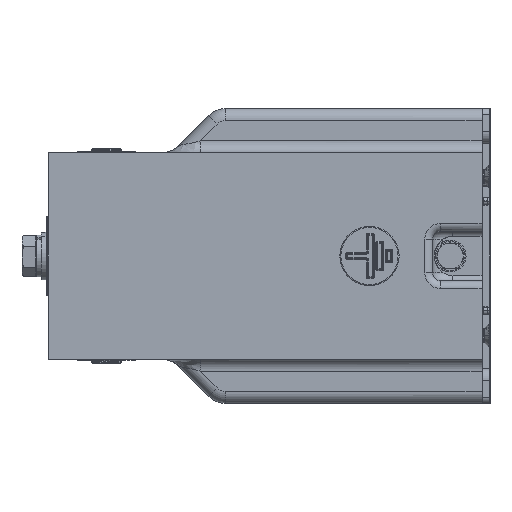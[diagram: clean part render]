
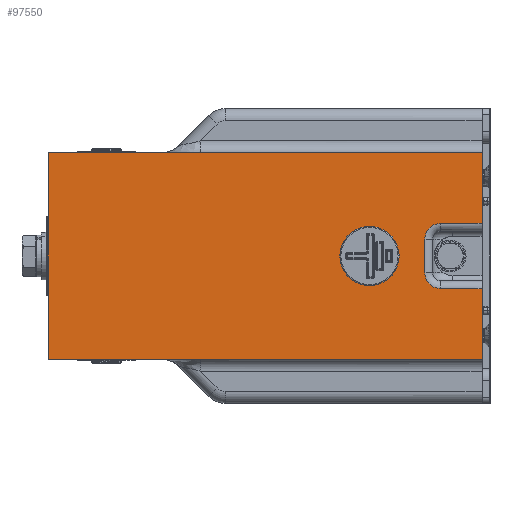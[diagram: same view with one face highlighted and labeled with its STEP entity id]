
A CAD part, left-side view. The second image highlights one B-rep face of the part: STEP entity #97550.
In plain terms, the highlighted planar face has unit normal (-1, 0, 0).
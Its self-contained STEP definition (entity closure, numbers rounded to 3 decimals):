
#352 = VECTOR ( 'NONE', #74462, 1000. ) ;
#1805 = VERTEX_POINT ( 'NONE', #57879 ) ;
#2628 = LINE ( 'NONE', #98120, #98462 ) ;
#3495 = CARTESIAN_POINT ( 'NONE',  ( -175.159, -94.087, -8.433 ) ) ;
#4143 = CARTESIAN_POINT ( 'NONE',  ( -175.159, -94.087, 16.369 ) ) ;
#7169 = VECTOR ( 'NONE', #80734, 1000. ) ;
#7337 = CARTESIAN_POINT ( 'NONE',  ( -175.159, -114.92, 16.369 ) ) ;
#9529 = DIRECTION ( 'NONE',  ( 0., 0., -1. ) ) ;
#9608 = ORIENTED_EDGE ( 'NONE', *, *, #20331, .F. ) ;
#10249 = EDGE_CURVE ( 'NONE', #103727, #77904, #92428, .T. ) ;
#10717 = CARTESIAN_POINT ( 'NONE',  ( -175.159, -114.92, -19.841 ) ) ;
#11743 = DIRECTION ( 'NONE',  ( 1., 0., 0. ) ) ;
#11749 = CARTESIAN_POINT ( 'NONE',  ( -175.159, -58.373, 14.881 ) ) ;
#13028 = EDGE_LOOP ( 'NONE', ( #101043, #33435 ) ) ;
#13439 = EDGE_CURVE ( 'NONE', #67068, #57451, #75510, .T. ) ;
#14161 = AXIS2_PLACEMENT_3D ( 'NONE', #3495, #11743, #20029 ) ;
#16736 = DIRECTION ( 'NONE',  ( 0., 0., -1. ) ) ;
#17189 = DIRECTION ( 'NONE',  ( 0., 0., -1. ) ) ;
#18295 = LINE ( 'NONE', #10717, #73183 ) ;
#18909 = CARTESIAN_POINT ( 'NONE',  ( -175.159, 103.08, 51.835 ) ) ;
#20029 = DIRECTION ( 'NONE',  ( 0., 0., -1. ) ) ;
#20058 = DIRECTION ( 'NONE',  ( 0., 0., -1. ) ) ;
#20331 = EDGE_CURVE ( 'NONE', #93513, #46008, #73727, .T. ) ;
#23579 = CARTESIAN_POINT ( 'NONE',  ( -175.159, 103.08, 51.835 ) ) ;
#24369 = AXIS2_PLACEMENT_3D ( 'NONE', #52564, #67918, #20058 ) ;
#24759 = FACE_BOUND ( 'NONE', #13028, .T. ) ;
#25494 = CARTESIAN_POINT ( 'NONE',  ( -175.159, -86.151, -8.433 ) ) ;
#25766 = DIRECTION ( 'NONE',  ( 0., 0., -1. ) ) ;
#27969 = EDGE_CURVE ( 'NONE', #74569, #81456, #88741, .T. ) ;
#28253 = LINE ( 'NONE', #75538, #63965 ) ;
#29356 = DIRECTION ( 'NONE',  ( 0., 0., 1. ) ) ;
#30422 = ORIENTED_EDGE ( 'NONE', *, *, #48382, .F. ) ;
#30887 = CARTESIAN_POINT ( 'NONE',  ( -175.159, -114.92, 51.835 ) ) ;
#31997 = ORIENTED_EDGE ( 'NONE', *, *, #97876, .T. ) ;
#33170 = VERTEX_POINT ( 'NONE', #37319 ) ;
#33435 = ORIENTED_EDGE ( 'NONE', *, *, #66390, .T. ) ;
#33898 = AXIS2_PLACEMENT_3D ( 'NONE', #96477, #64392, #105326 ) ;
#35260 = CARTESIAN_POINT ( 'NONE',  ( -175.159, -94.087, -16.369 ) ) ;
#36122 = ORIENTED_EDGE ( 'NONE', *, *, #98200, .F. ) ;
#37319 = CARTESIAN_POINT ( 'NONE',  ( -175.159, -58.373, -14.881 ) ) ;
#39265 = DIRECTION ( 'NONE',  ( 0., 0., 1. ) ) ;
#40197 = FACE_OUTER_BOUND ( 'NONE', #55914, .T. ) ;
#41080 = VERTEX_POINT ( 'NONE', #85123 ) ;
#41836 = CARTESIAN_POINT ( 'NONE',  ( -175.159, -94.087, 8.432 ) ) ;
#43696 = CIRCLE ( 'NONE', #49086, 7.937 ) ;
#44549 = ORIENTED_EDGE ( 'NONE', *, *, #52880, .T. ) ;
#46008 = VERTEX_POINT ( 'NONE', #4143 ) ;
#46448 = CARTESIAN_POINT ( 'NONE',  ( -175.159, -114.92, -51.835 ) ) ;
#48088 = CARTESIAN_POINT ( 'NONE',  ( -175.159, -114.92, -16.369 ) ) ;
#48382 = EDGE_CURVE ( 'NONE', #67068, #81456, #28253, .T. ) ;
#49086 = AXIS2_PLACEMENT_3D ( 'NONE', #41836, #99156, #9529 ) ;
#50186 = VECTOR ( 'NONE', #67472, 1000. ) ;
#50454 = DIRECTION ( 'NONE',  ( 1., 0., 0. ) ) ;
#52564 = CARTESIAN_POINT ( 'NONE',  ( -175.159, -58.373, 0. ) ) ;
#52880 = EDGE_CURVE ( 'NONE', #77904, #1805, #61982, .T. ) ;
#53733 = ORIENTED_EDGE ( 'NONE', *, *, #57912, .T. ) ;
#54608 = CARTESIAN_POINT ( 'NONE',  ( -175.159, -114.92, -19.841 ) ) ;
#55914 = EDGE_LOOP ( 'NONE', ( #102090, #30422, #56225, #56734, #53733, #9608, #31997, #61777, #44549, #36122 ) ) ;
#56225 = ORIENTED_EDGE ( 'NONE', *, *, #13439, .T. ) ;
#56734 = ORIENTED_EDGE ( 'NONE', *, *, #68699, .F. ) ;
#57451 = VERTEX_POINT ( 'NONE', #25494 ) ;
#57879 = CARTESIAN_POINT ( 'NONE',  ( -175.159, 103.08, -51.835 ) ) ;
#57912 = EDGE_CURVE ( 'NONE', #41080, #46008, #43696, .T. ) ;
#59280 = CARTESIAN_POINT ( 'NONE',  ( -175.159, -114.92, -51.835 ) ) ;
#61301 = CIRCLE ( 'NONE', #95047, 14.881 ) ;
#61777 = ORIENTED_EDGE ( 'NONE', *, *, #10249, .T. ) ;
#61982 = LINE ( 'NONE', #18909, #104074 ) ;
#63965 = VECTOR ( 'NONE', #92953, 1000. ) ;
#64392 = DIRECTION ( 'NONE',  ( 1., 0., 0. ) ) ;
#66390 = EDGE_CURVE ( 'NONE', #91888, #33170, #72055, .T. ) ;
#67068 = VERTEX_POINT ( 'NONE', #35260 ) ;
#67185 = CARTESIAN_POINT ( 'NONE',  ( -175.159, -58.373, 0. ) ) ;
#67472 = DIRECTION ( 'NONE',  ( 0., 1., 0. ) ) ;
#67918 = DIRECTION ( 'NONE',  ( 1., 0., 0. ) ) ;
#68699 = EDGE_CURVE ( 'NONE', #41080, #57451, #2628, .T. ) ;
#70635 = LINE ( 'NONE', #59280, #50186 ) ;
#71825 = CARTESIAN_POINT ( 'NONE',  ( -175.159, -114.92, 16.369 ) ) ;
#72055 = CIRCLE ( 'NONE', #24369, 14.881 ) ;
#72941 = PLANE ( 'NONE',  #33898 ) ;
#73183 = VECTOR ( 'NONE', #29356, 1000. ) ;
#73727 = LINE ( 'NONE', #71825, #7169 ) ;
#74462 = DIRECTION ( 'NONE',  ( 0., 1., 0. ) ) ;
#74569 = VERTEX_POINT ( 'NONE', #46448 ) ;
#75510 = CIRCLE ( 'NONE', #14161, 7.937 ) ;
#75538 = CARTESIAN_POINT ( 'NONE',  ( -175.159, -114.92, -16.369 ) ) ;
#77904 = VERTEX_POINT ( 'NONE', #23579 ) ;
#80734 = DIRECTION ( 'NONE',  ( 0., 1., 0. ) ) ;
#81456 = VERTEX_POINT ( 'NONE', #48088 ) ;
#85123 = CARTESIAN_POINT ( 'NONE',  ( -175.159, -86.151, 8.432 ) ) ;
#87800 = CARTESIAN_POINT ( 'NONE',  ( -175.159, -114.92, 51.835 ) ) ;
#88741 = LINE ( 'NONE', #54608, #97691 ) ;
#91888 = VERTEX_POINT ( 'NONE', #11749 ) ;
#92428 = LINE ( 'NONE', #87800, #352 ) ;
#92953 = DIRECTION ( 'NONE',  ( 0., -1., 0. ) ) ;
#93513 = VERTEX_POINT ( 'NONE', #7337 ) ;
#95047 = AXIS2_PLACEMENT_3D ( 'NONE', #67185, #50454, #17189 ) ;
#96477 = CARTESIAN_POINT ( 'NONE',  ( -175.159, -114.92, 0. ) ) ;
#97550 = ADVANCED_FACE ( 'NONE', ( #40197, #24759 ), #72941, .F. ) ;
#97691 = VECTOR ( 'NONE', #39265, 1000. ) ;
#97876 = EDGE_CURVE ( 'NONE', #93513, #103727, #18295, .T. ) ;
#98120 = CARTESIAN_POINT ( 'NONE',  ( -175.159, -86.151, -12.401 ) ) ;
#98200 = EDGE_CURVE ( 'NONE', #74569, #1805, #70635, .T. ) ;
#98462 = VECTOR ( 'NONE', #16736, 1000. ) ;
#99156 = DIRECTION ( 'NONE',  ( 1., 0., 0. ) ) ;
#101043 = ORIENTED_EDGE ( 'NONE', *, *, #103966, .T. ) ;
#102090 = ORIENTED_EDGE ( 'NONE', *, *, #27969, .T. ) ;
#103727 = VERTEX_POINT ( 'NONE', #30887 ) ;
#103966 = EDGE_CURVE ( 'NONE', #33170, #91888, #61301, .T. ) ;
#104074 = VECTOR ( 'NONE', #25766, 1000. ) ;
#105326 = DIRECTION ( 'NONE',  ( 0., 0., -1. ) ) ;
